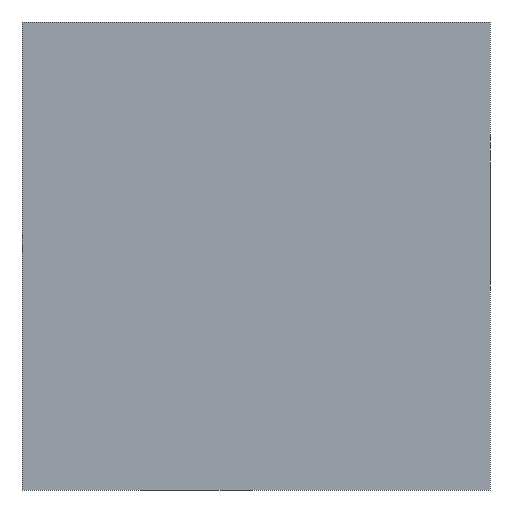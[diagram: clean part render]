
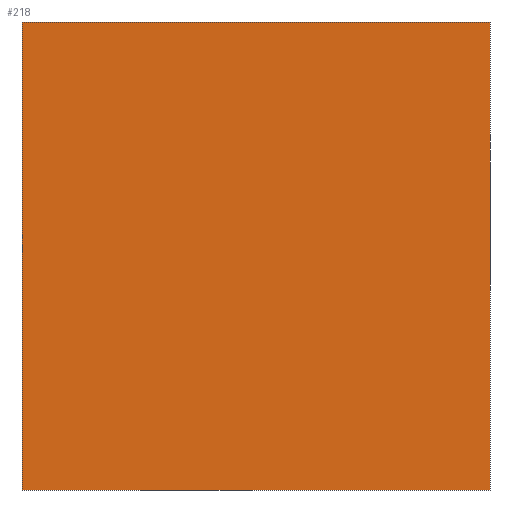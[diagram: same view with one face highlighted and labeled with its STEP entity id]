
A CAD part, front view. The second image highlights one B-rep face of the part: STEP entity #218.
In plain terms, the highlighted planar face has unit normal (0, -1, 0).
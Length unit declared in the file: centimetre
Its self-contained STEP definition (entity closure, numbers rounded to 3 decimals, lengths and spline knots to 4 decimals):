
#6 = CARTESIAN_POINT ( 'NONE',  ( 1000., 0., 0. ) ) ;
#41 = CARTESIAN_POINT ( 'NONE',  ( 0., 0., 1000. ) ) ;
#91 = LINE ( 'NONE', #329, #428 ) ;
#93 = CARTESIAN_POINT ( 'NONE',  ( 0., 0., 0. ) ) ;
#119 = VERTEX_POINT ( 'NONE', #550 ) ;
#122 = EDGE_CURVE ( 'NONE', #590, #251, #224, .T. ) ;
#129 = CARTESIAN_POINT ( 'NONE',  ( 0., 0., 0. ) ) ;
#154 = EDGE_CURVE ( 'NONE', #119, #184, #280, .T. ) ;
#170 = ORIENTED_EDGE ( 'NONE', *, *, #122, .T. ) ;
#181 = DIRECTION ( 'NONE',  ( 0., 0., 1. ) ) ;
#184 = VERTEX_POINT ( 'NONE', #597 ) ;
#199 = LINE ( 'NONE', #434, #248 ) ;
#202 = DIRECTION ( 'NONE',  ( 0., 0., -1. ) ) ;
#206 = VECTOR ( 'NONE', #282, 100. ) ;
#212 = EDGE_CURVE ( 'NONE', #184, #251, #91, .T. ) ;
#218 = ADVANCED_FACE ( 'NONE', ( #365 ), #222, .F. ) ;
#222 = PLANE ( 'NONE',  #225 ) ;
#224 = LINE ( 'NONE', #129, #260 ) ;
#225 = AXIS2_PLACEMENT_3D ( 'NONE', #41, #401, #181 ) ;
#248 = VECTOR ( 'NONE', #202, 100. ) ;
#251 = VERTEX_POINT ( 'NONE', #6 ) ;
#260 = VECTOR ( 'NONE', #372, 100. ) ;
#278 = ORIENTED_EDGE ( 'NONE', *, *, #212, .F. ) ;
#280 = LINE ( 'NONE', #407, #206 ) ;
#282 = DIRECTION ( 'NONE',  ( 1., 0., 0. ) ) ;
#329 = CARTESIAN_POINT ( 'NONE',  ( 1000., 0., 1000. ) ) ;
#331 = DIRECTION ( 'NONE',  ( 0., 0., -1. ) ) ;
#365 = FACE_OUTER_BOUND ( 'NONE', #586, .T. ) ;
#372 = DIRECTION ( 'NONE',  ( 1., 0., 0. ) ) ;
#401 = DIRECTION ( 'NONE',  ( 0., 1., 0. ) ) ;
#407 = CARTESIAN_POINT ( 'NONE',  ( 0., 0., 1000. ) ) ;
#428 = VECTOR ( 'NONE', #331, 100. ) ;
#434 = CARTESIAN_POINT ( 'NONE',  ( 0., 0., 1000. ) ) ;
#454 = ORIENTED_EDGE ( 'NONE', *, *, #154, .F. ) ;
#474 = EDGE_CURVE ( 'NONE', #119, #590, #199, .T. ) ;
#530 = ORIENTED_EDGE ( 'NONE', *, *, #474, .T. ) ;
#550 = CARTESIAN_POINT ( 'NONE',  ( 0., 0., 1000. ) ) ;
#586 = EDGE_LOOP ( 'NONE', ( #170, #278, #454, #530 ) ) ;
#590 = VERTEX_POINT ( 'NONE', #93 ) ;
#597 = CARTESIAN_POINT ( 'NONE',  ( 1000., 0., 1000. ) ) ;
